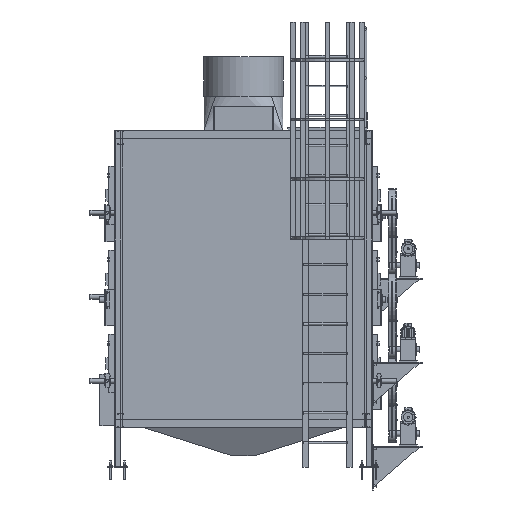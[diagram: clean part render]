
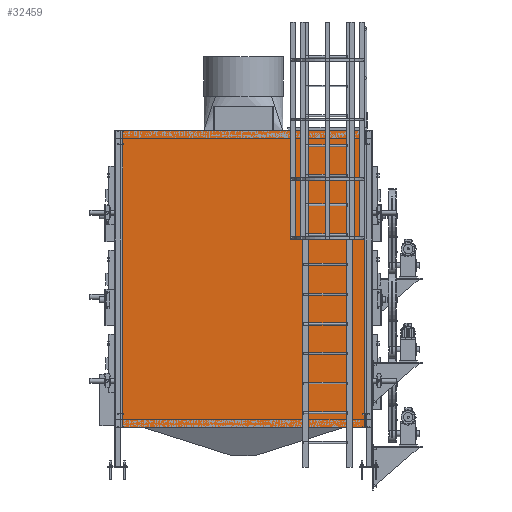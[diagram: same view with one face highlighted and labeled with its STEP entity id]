
A CAD part, left-side view. The second image highlights one B-rep face of the part: STEP entity #32459.
In plain terms, the highlighted planar face has unit normal (-1, 0, 0).
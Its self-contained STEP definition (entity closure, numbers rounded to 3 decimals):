
#32459 = ADVANCED_FACE('',(#32460),#32494,.F.);
#32460 = FACE_BOUND('',#32461,.F.);
#32461 = EDGE_LOOP('',(#32462,#32472,#32480,#32488));
#32462 = ORIENTED_EDGE('',*,*,#32463,.F.);
#32463 = EDGE_CURVE('',#32464,#32466,#32468,.T.);
#32464 = VERTEX_POINT('',#32465);
#32465 = CARTESIAN_POINT('',(0.,80.,400.));
#32466 = VERTEX_POINT('',#32467);
#32467 = CARTESIAN_POINT('',(0.,80.,3400.));
#32468 = LINE('',#32469,#32470);
#32469 = CARTESIAN_POINT('',(0.,80.,400.));
#32470 = VECTOR('',#32471,1.);
#32471 = DIRECTION('',(0.,0.,1.));
#32472 = ORIENTED_EDGE('',*,*,#32473,.T.);
#32473 = EDGE_CURVE('',#32464,#32474,#32476,.T.);
#32474 = VERTEX_POINT('',#32475);
#32475 = CARTESIAN_POINT('',(0.,2520.,400.));
#32476 = LINE('',#32477,#32478);
#32477 = CARTESIAN_POINT('',(0.,80.,400.));
#32478 = VECTOR('',#32479,1.);
#32479 = DIRECTION('',(-0.,1.,0.));
#32480 = ORIENTED_EDGE('',*,*,#32481,.T.);
#32481 = EDGE_CURVE('',#32474,#32482,#32484,.T.);
#32482 = VERTEX_POINT('',#32483);
#32483 = CARTESIAN_POINT('',(0.,2520.,3400.));
#32484 = LINE('',#32485,#32486);
#32485 = CARTESIAN_POINT('',(0.,2520.,400.));
#32486 = VECTOR('',#32487,1.);
#32487 = DIRECTION('',(0.,0.,1.));
#32488 = ORIENTED_EDGE('',*,*,#32489,.F.);
#32489 = EDGE_CURVE('',#32466,#32482,#32490,.T.);
#32490 = LINE('',#32491,#32492);
#32491 = CARTESIAN_POINT('',(0.,80.,3400.));
#32492 = VECTOR('',#32493,1.);
#32493 = DIRECTION('',(-0.,1.,0.));
#32494 = PLANE('',#32495);
#32495 = AXIS2_PLACEMENT_3D('',#32496,#32497,#32498);
#32496 = CARTESIAN_POINT('',(0.,80.,400.));
#32497 = DIRECTION('',(1.,0.,-0.));
#32498 = DIRECTION('',(0.,0.,1.));
